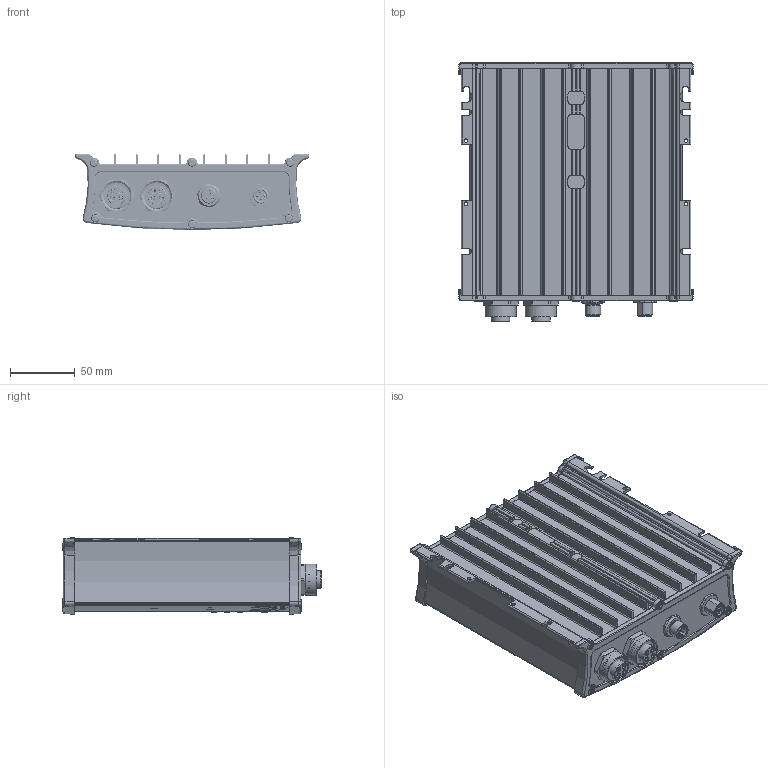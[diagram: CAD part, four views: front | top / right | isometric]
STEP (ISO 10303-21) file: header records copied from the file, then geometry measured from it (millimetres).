
FILE_DESCRIPTION (( 'STEP AP214' ), '1' );
FILE_NAME ('451.13.01.STEP', '2024-07-29T09:33:23', ( '' ), ( '' ), 'SwSTEP 2.0', 'SolidWorks 2024', '' );
FILE_SCHEMA (( 'AUTOMOTIVE_DESIGN' ));
Length unit declared in the file: millimetre
Products named in the file (1): 451.13.01
Bounding box: 180.63 x 199.15 x 58.73 mm (x, y, z)
Volume: 269592.7 mm3; surface area: 352641.3 mm2
Topology: 44 solids, 47 shells, 3829 faces, 10027 edges, 6651 vertices
Faces by surface type: plane 1296, cylinder 965, bspline 876, torus 455, cone 233, sphere 4
Full cylindrical faces by diameter (mm): 0.56 x6, 1 x5, 1.5 x5, 1.6 x12, 1.8 x1, 2 x12, 2.05 x8, 2.17 x4, 2.2 x12, 2.23 x4, 2.4 x8, 2.6 x12, 2.7 x4, 3 x20, 3.4 x8, 3.6 x12, 5 x3, 6 x24, 8.3 x1, 8.35 x1, 10.3 x1, 10.5 x1, 10.65 x1, 11 x1, 12 x1, 12.15 x1, 13.3 x2, 13.4 x1, 13.8 x2, 14.3 x2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
Entity records: 272009 total; most frequent: CARTESIAN_POINT 144840, ORIENTED_EDGE 18818, DIRECTION 14717, EDGE_CURVE 9409, VERTEX_POINT 6449, AXIS2_PLACEMENT_3D 5797, EDGE_LOOP 4710, FACE_OUTER_BOUND 4170
